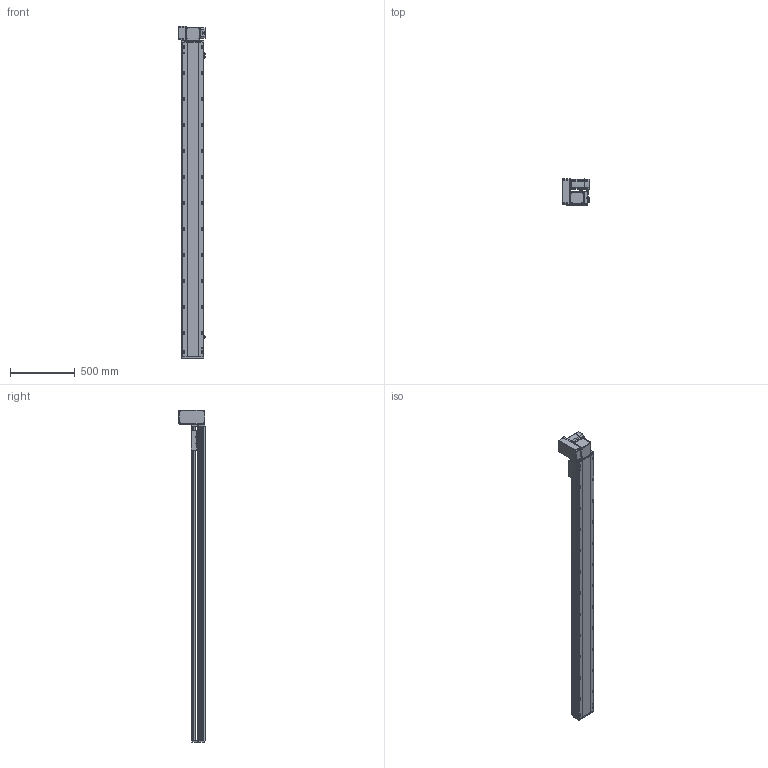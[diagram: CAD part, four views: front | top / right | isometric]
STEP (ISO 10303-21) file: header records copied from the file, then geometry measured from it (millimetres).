
FILE_DESCRIPTION (( 'STEP AP214' ), '1' );
FILE_NAME ('RTB17S-XX-2150-LW-M75-C4.STEP', '2025-12-12T01:11:37', ( '' ), ( '' ), 'SwSTEP 2.0', 'SolidWorks 2018', '' );
FILE_SCHEMA (( 'AUTOMOTIVE_DESIGN' ));
Length unit declared in the file: millimetre
Products named in the file (15): 750W萇儂^RTB17S-XX-XX-LW-M75-C4; RTB17S-L-001-耜醱啣^RTB17S-XX-XX-LW-M75-C4; RTB17S-賑釱^RTB17S-XX-XX-LW-M75-C4; EE672^RTB17S-XX-XX-LW-M75-C4; RTB17S-L-007奻裔^RTB17S-XX-XX-LW-M75-C4; RTB22S-GY-005P^RTB17S-LW-々湍釱蚾饜-750W_RTB17S-XX-XX-LW-M75-C4; RTH13-BL-012覜茼え俋离^RTB17S-賑釱_RTB17S-XX-XX-LW-M75-C4; RTB17S-L-014-T20-P75--々湍釱^RTB17S-LW-々湍釱蚾饜-750W_RTB17S-XX-XX-LW-M75-C4; RTB17-R-011菁釱^RTB17S-XX-XX-LW-M75-C4; RTB22S-GY-017P^RTB17S-LW-々湍釱蚾饜-750W_RTB17S-XX-XX-LW-M75-C4; RTB22S-GY-018P^RTB17S-LW-々湍釱蚾饜-750W_RTB17S-XX-XX-LW-M75-C4; RTB17S-LW-々湍釱蚾饜-750W^RTB17S-XX-XX-LW-M75-C4; RTB17S-L-004-賑釱^RTB17S-賑釱_RTB17S-XX-XX-LW-M75-C4; RTB17S-XX-2150-LW-M75-C4; RTB22S-GY-008-M75--萇儂啣^RTB17S-LW-々湍釱蚾饜-750W_RTB17S-XX-XX-LW-M75-C4
Assembly tree (17 placements, depth 3):
  RTB17S-XX-2150-LW-M75-C4
    RTB17-R-011菁釱^RTB17S-XX-XX-LW-M75-C4
    EE672^RTB17S-XX-XX-LW-M75-C4  x3
    RTB17S-L-001-耜醱啣^RTB17S-XX-XX-LW-M75-C4
    RTB17S-賑釱^RTB17S-XX-XX-LW-M75-C4
      RTB17S-L-004-賑釱^RTB17S-賑釱_RTB17S-XX-XX-LW-M75-C4
      RTH13-BL-012覜茼え俋离^RTB17S-賑釱_RTB17S-XX-XX-LW-M75-C4
    RTB17S-L-007奻裔^RTB17S-XX-XX-LW-M75-C4
    750W萇儂^RTB17S-XX-XX-LW-M75-C4
    RTB17S-LW-々湍釱蚾饜-750W^RTB17S-XX-XX-LW-M75-C4
      RTB17S-L-014-T20-P75--々湍釱^RTB17S-LW-々湍釱蚾饜-750W_RTB17S-XX-XX-LW-M75-C4
      RTB22S-GY-005P^RTB17S-LW-々湍釱蚾饜-750W_RTB17S-XX-XX-LW-M75-C4
      RTB22S-GY-017P^RTB17S-LW-々湍釱蚾饜-750W_RTB17S-XX-XX-LW-M75-C4  x2
      RTB22S-GY-008-M75--萇儂啣^RTB17S-LW-々湍釱蚾饜-750W_RTB17S-XX-XX-LW-M75-C4
      RTB22S-GY-018P^RTB17S-LW-々湍釱蚾饜-750W_RTB17S-XX-XX-LW-M75-C4
Bounding box: 210.4 x 201.5 x 2557.5 mm (x, y, z)
Volume: 19389971.8 mm3; surface area: 3483497.7 mm2
Topology: 17 solids, 17 shells, 2185 faces, 6106 edges, 3950 vertices
Faces by surface type: plane 982, cylinder 787, bspline 294, cone 110, sphere 8, torus 4
Entity records: 62710 total; most frequent: CARTESIAN_POINT 18570, ORIENTED_EDGE 9056, DIRECTION 8402, EDGE_CURVE 4528, AXIS2_PLACEMENT_3D 2970, VERTEX_POINT 2954, LINE 2462, VECTOR 2462
